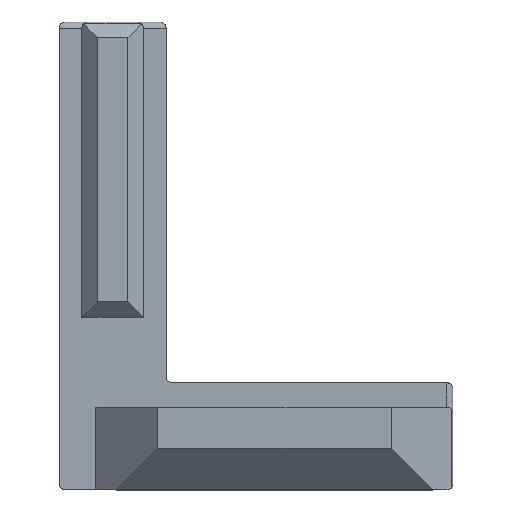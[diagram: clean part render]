
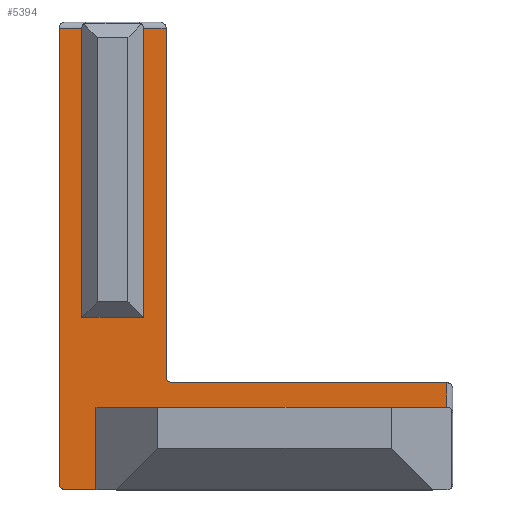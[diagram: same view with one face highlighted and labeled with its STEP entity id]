
A CAD part, top view. The second image highlights one B-rep face of the part: STEP entity #5394.
In plain terms, the highlighted planar face has unit normal (0, 0, 1).
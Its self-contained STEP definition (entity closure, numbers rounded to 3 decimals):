
#46 = DIRECTION ( 'NONE',  ( 1., 0., 0. ) ) ;
#71 = EDGE_LOOP ( 'NONE', ( #1350, #265, #5408, #3545, #3099, #5460, #2275, #89, #4499, #6107, #549, #607, #2120, #608 ) ) ;
#89 = ORIENTED_EDGE ( 'NONE', *, *, #4910, .F. ) ;
#113 = CARTESIAN_POINT ( 'NONE',  ( 3., 0., 4. ) ) ;
#142 = CARTESIAN_POINT ( 'NONE',  ( 1.85, 14., 4. ) ) ;
#186 = EDGE_CURVE ( 'NONE', #6077, #3424, #3071, .T. ) ;
#201 = CARTESIAN_POINT ( 'NONE',  ( 6.85, 14., 4. ) ) ;
#229 = CARTESIAN_POINT ( 'NONE',  ( 1.85, 37.5, 4. ) ) ;
#243 = LINE ( 'NONE', #5831, #3927 ) ;
#265 = ORIENTED_EDGE ( 'NONE', *, *, #5352, .T. ) ;
#286 = CARTESIAN_POINT ( 'NONE',  ( 0., 37.5, 4. ) ) ;
#427 = EDGE_CURVE ( 'NONE', #2538, #4284, #243, .T. ) ;
#429 = DIRECTION ( 'NONE',  ( 0., 0., 1. ) ) ;
#444 = LINE ( 'NONE', #6027, #2973 ) ;
#513 = VECTOR ( 'NONE', #5720, 1000. ) ;
#549 = ORIENTED_EDGE ( 'NONE', *, *, #4250, .T. ) ;
#593 = LINE ( 'NONE', #6166, #976 ) ;
#607 = ORIENTED_EDGE ( 'NONE', *, *, #1284, .T. ) ;
#608 = ORIENTED_EDGE ( 'NONE', *, *, #2521, .F. ) ;
#664 = EDGE_CURVE ( 'NONE', #4057, #3818, #3697, .T. ) ;
#674 = CARTESIAN_POINT ( 'NONE',  ( 3., 0., 4. ) ) ;
#703 = DIRECTION ( 'NONE',  ( 0., 0., -1. ) ) ;
#736 = DIRECTION ( 'NONE',  ( 1., 0., 0. ) ) ;
#737 = CARTESIAN_POINT ( 'NONE',  ( 31.5, 8.7, 4. ) ) ;
#759 = VERTEX_POINT ( 'NONE', #3083 ) ;
#760 = LINE ( 'NONE', #113, #513 ) ;
#843 = LINE ( 'NONE', #201, #4622 ) ;
#891 = EDGE_CURVE ( 'NONE', #759, #5342, #1712, .T. ) ;
#976 = VECTOR ( 'NONE', #5567, 1000. ) ;
#1014 = VERTEX_POINT ( 'NONE', #737 ) ;
#1063 = CARTESIAN_POINT ( 'NONE',  ( 0., 0., 4. ) ) ;
#1064 = EDGE_CURVE ( 'NONE', #3503, #1171, #4770, .T. ) ;
#1137 = EDGE_CURVE ( 'NONE', #5342, #5422, #3573, .T. ) ;
#1171 = VERTEX_POINT ( 'NONE', #3911 ) ;
#1284 = EDGE_CURVE ( 'NONE', #1449, #4057, #5115, .T. ) ;
#1332 = CARTESIAN_POINT ( 'NONE',  ( 9.2, 9.2, 4. ) ) ;
#1350 = ORIENTED_EDGE ( 'NONE', *, *, #427, .F. ) ;
#1367 = DIRECTION ( 'NONE',  ( 0., 0., 1. ) ) ;
#1449 = VERTEX_POINT ( 'NONE', #4804 ) ;
#1506 = LINE ( 'NONE', #3941, #2501 ) ;
#1705 = PLANE ( 'NONE',  #3295 ) ;
#1712 = CIRCLE ( 'NONE', #4459, 0.5 ) ;
#1787 = DIRECTION ( 'NONE',  ( 0., -1., 0. ) ) ;
#1994 = EDGE_CURVE ( 'NONE', #6077, #2688, #593, .T. ) ;
#2065 = VECTOR ( 'NONE', #3486, 1000. ) ;
#2120 = ORIENTED_EDGE ( 'NONE', *, *, #664, .T. ) ;
#2139 = CARTESIAN_POINT ( 'NONE',  ( 3., 6.7, 4. ) ) ;
#2275 = ORIENTED_EDGE ( 'NONE', *, *, #1064, .F. ) ;
#2293 = DIRECTION ( 'NONE',  ( 0., 1., 0. ) ) ;
#2341 = FACE_OUTER_BOUND ( 'NONE', #71, .T. ) ;
#2408 = DIRECTION ( 'NONE',  ( 1., 0., 0. ) ) ;
#2432 = CARTESIAN_POINT ( 'NONE',  ( 1.85, 38., 4. ) ) ;
#2501 = VECTOR ( 'NONE', #3285, 1000. ) ;
#2521 = EDGE_CURVE ( 'NONE', #4284, #3818, #760, .T. ) ;
#2538 = VERTEX_POINT ( 'NONE', #6045 ) ;
#2611 = CARTESIAN_POINT ( 'NONE',  ( 6.85, 14., 4. ) ) ;
#2647 = EDGE_CURVE ( 'NONE', #1014, #759, #444, .T. ) ;
#2688 = VERTEX_POINT ( 'NONE', #286 ) ;
#2928 = CARTESIAN_POINT ( 'NONE',  ( 8.7, 8.7, 4. ) ) ;
#2973 = VECTOR ( 'NONE', #5410, 1000. ) ;
#3048 = CARTESIAN_POINT ( 'NONE',  ( 0., 0., 4. ) ) ;
#3061 = VECTOR ( 'NONE', #1787, 1000. ) ;
#3071 = LINE ( 'NONE', #2432, #3061 ) ;
#3083 = CARTESIAN_POINT ( 'NONE',  ( 9.2, 8.7, 4. ) ) ;
#3099 = ORIENTED_EDGE ( 'NONE', *, *, #1137, .T. ) ;
#3285 = DIRECTION ( 'NONE',  ( 0., 1., 0. ) ) ;
#3295 = AXIS2_PLACEMENT_3D ( 'NONE', #1063, #429, #6011 ) ;
#3296 = CARTESIAN_POINT ( 'NONE',  ( 0.5, 0.5, 4. ) ) ;
#3363 = VECTOR ( 'NONE', #2293, 1000. ) ;
#3424 = VERTEX_POINT ( 'NONE', #142 ) ;
#3486 = DIRECTION ( 'NONE',  ( 0., 1., 0. ) ) ;
#3503 = VERTEX_POINT ( 'NONE', #2611 ) ;
#3545 = ORIENTED_EDGE ( 'NONE', *, *, #891, .T. ) ;
#3571 = DIRECTION ( 'NONE',  ( 0., -1., 0. ) ) ;
#3573 = LINE ( 'NONE', #2928, #3363 ) ;
#3697 = LINE ( 'NONE', #3048, #3847 ) ;
#3818 = VERTEX_POINT ( 'NONE', #674 ) ;
#3847 = VECTOR ( 'NONE', #2408, 1000. ) ;
#3911 = CARTESIAN_POINT ( 'NONE',  ( 6.85, 37.5, 4. ) ) ;
#3927 = VECTOR ( 'NONE', #5215, 1000. ) ;
#3941 = CARTESIAN_POINT ( 'NONE',  ( 31.5, 8.7, 4. ) ) ;
#4057 = VERTEX_POINT ( 'NONE', #4301 ) ;
#4139 = DIRECTION ( 'NONE',  ( -1., 0., 0. ) ) ;
#4144 = CARTESIAN_POINT ( 'NONE',  ( 6.85, 38., 4. ) ) ;
#4225 = CARTESIAN_POINT ( 'NONE',  ( 0., 0., 4. ) ) ;
#4250 = EDGE_CURVE ( 'NONE', #2688, #1449, #4847, .T. ) ;
#4284 = VERTEX_POINT ( 'NONE', #2139 ) ;
#4301 = CARTESIAN_POINT ( 'NONE',  ( 0.5, 0., 4. ) ) ;
#4459 = AXIS2_PLACEMENT_3D ( 'NONE', #1332, #703, #46 ) ;
#4472 = CARTESIAN_POINT ( 'NONE',  ( 8.7, 37.5, 4. ) ) ;
#4499 = ORIENTED_EDGE ( 'NONE', *, *, #186, .F. ) ;
#4622 = VECTOR ( 'NONE', #5791, 1000. ) ;
#4764 = CARTESIAN_POINT ( 'NONE',  ( 6.85, 37.5, 4. ) ) ;
#4770 = LINE ( 'NONE', #4144, #2065 ) ;
#4804 = CARTESIAN_POINT ( 'NONE',  ( 0., 0.5, 4. ) ) ;
#4847 = LINE ( 'NONE', #4225, #6174 ) ;
#4910 = EDGE_CURVE ( 'NONE', #3424, #3503, #843, .T. ) ;
#5115 = CIRCLE ( 'NONE', #5568, 0.5 ) ;
#5207 = CARTESIAN_POINT ( 'NONE',  ( 8.7, 9.2, 4. ) ) ;
#5215 = DIRECTION ( 'NONE',  ( -1., 0., 0. ) ) ;
#5284 = VECTOR ( 'NONE', #4139, 1000. ) ;
#5342 = VERTEX_POINT ( 'NONE', #5207 ) ;
#5352 = EDGE_CURVE ( 'NONE', #2538, #1014, #1506, .T. ) ;
#5394 = ADVANCED_FACE ( 'NONE', ( #2341 ), #1705, .T. ) ;
#5398 = LINE ( 'NONE', #4764, #5284 ) ;
#5408 = ORIENTED_EDGE ( 'NONE', *, *, #2647, .T. ) ;
#5410 = DIRECTION ( 'NONE',  ( -1., 0., 0. ) ) ;
#5422 = VERTEX_POINT ( 'NONE', #4472 ) ;
#5460 = ORIENTED_EDGE ( 'NONE', *, *, #5523, .T. ) ;
#5523 = EDGE_CURVE ( 'NONE', #5422, #1171, #5398, .T. ) ;
#5567 = DIRECTION ( 'NONE',  ( -1., 0., 0. ) ) ;
#5568 = AXIS2_PLACEMENT_3D ( 'NONE', #3296, #1367, #736 ) ;
#5720 = DIRECTION ( 'NONE',  ( 0., -1., 0. ) ) ;
#5791 = DIRECTION ( 'NONE',  ( 1., 0., 0. ) ) ;
#5831 = CARTESIAN_POINT ( 'NONE',  ( 3., 6.7, 4. ) ) ;
#6011 = DIRECTION ( 'NONE',  ( 1., 0., 0. ) ) ;
#6027 = CARTESIAN_POINT ( 'NONE',  ( 32., 8.7, 4. ) ) ;
#6045 = CARTESIAN_POINT ( 'NONE',  ( 31.5, 6.7, 4. ) ) ;
#6077 = VERTEX_POINT ( 'NONE', #229 ) ;
#6107 = ORIENTED_EDGE ( 'NONE', *, *, #1994, .T. ) ;
#6166 = CARTESIAN_POINT ( 'NONE',  ( 0., 37.5, 4. ) ) ;
#6174 = VECTOR ( 'NONE', #3571, 1000. ) ;
